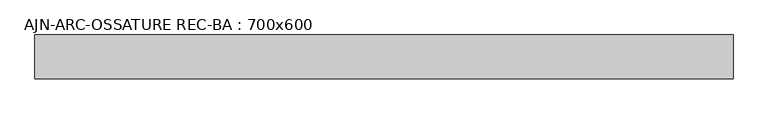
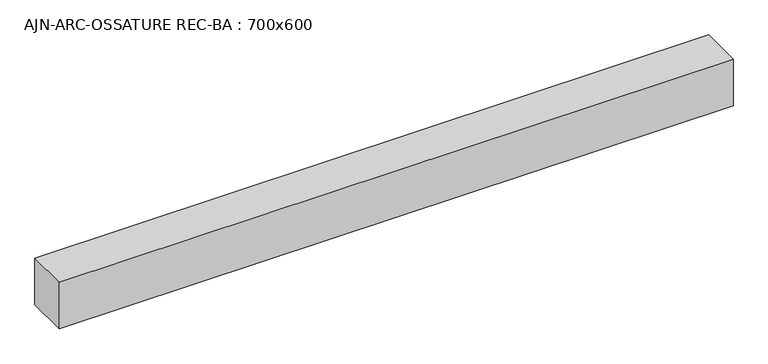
"""IFC4 building model written with IfcOpenShell, lengths in millimetres: beam geometry, AJN-ARC-OSSATURE REC-BA : 700x600."""

from ifc_helpers import new_model, si_unit, frame, origin, place, context, project, spatial, polyline, outline, extrude, source, transform, mapped, element, save


def ajn_arc_ossature_rec_ba_700x600_e99f8707(model_context):
    return source(origin(), model_context, "Body", "SweptSolid", [
        extrude(outline(polyline([(4637.3, 300.0), (4637.3, -300.0), (-4937.2999994, -300.0), (-4937.2999994, 300.0), (4637.3, 300.0)])), frame((0.0, 0.0, -350.0), z_axis=(0.0, 0.0, 1.0), x_axis=(1.0, 0.0, 0.0)), (0.0, 0.0, 1.0), 700.0),
    ])


if __name__ == "__main__":
    model = new_model("IFC4")
    model_context = context("Model", 3, world=origin())
    ifc_project = project(units=[si_unit("LENGTHUNIT", "METRE", prefix="MILLI")], contexts=[model_context])
    site = spatial("IfcSite", under=ifc_project)
    building = spatial("IfcBuilding", under=site)
    placement = place(None, origin())
    ajn_arc_ossature_rec_ba_700x600_shape = ajn_arc_ossature_rec_ba_700x600_e99f8707(model_context)
    element("IfcBeam", 1, ObjectType="AJN-ARC-OSSATURE REC-BA : 700x600", at=placement, inside=building, context=model_context, shape_type="MappedRepresentation", body=[
        mapped(ajn_arc_ossature_rec_ba_700x600_shape, transform((0.0, 0.0, 0.0), x_axis=(1.0, 0.0, 0.0), y_axis=(0.0, 1.0, 0.0), z_axis=(0.0, 0.0, 1.0))),
    ])
    save(model, "model.ifc")
